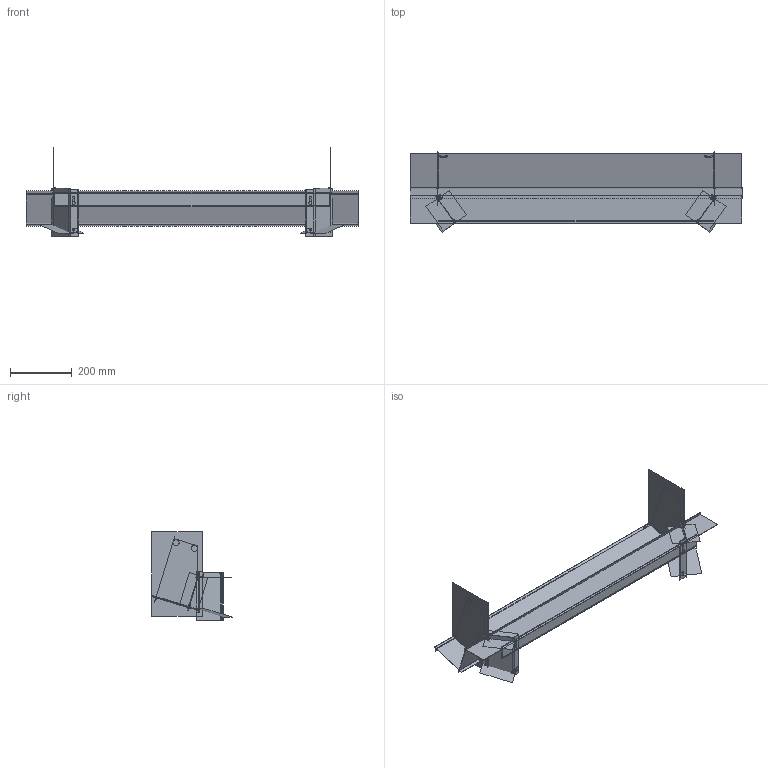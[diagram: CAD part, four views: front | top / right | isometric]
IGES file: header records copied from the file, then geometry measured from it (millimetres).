
Global section: file name: C:\Users\utente\Desktop\3d sito\SARMIENTO\SARMIENTO.igs; native system: Rhinoceros ( Mar  9 2011 ); preprocessor: Trout Lake IGES 012 Mar  9 2011; date: 170531.170305; units: millimetre
Bounding box: 1076.16 x 259.76 x 287.33 mm (x, y, z)
Surface area: 1260252.5 mm2 (no closed solid volume)
Topology: 0 solids, 0 shells, 150 faces, 638 edges, 676 vertices
Faces by surface type: bspline 150
